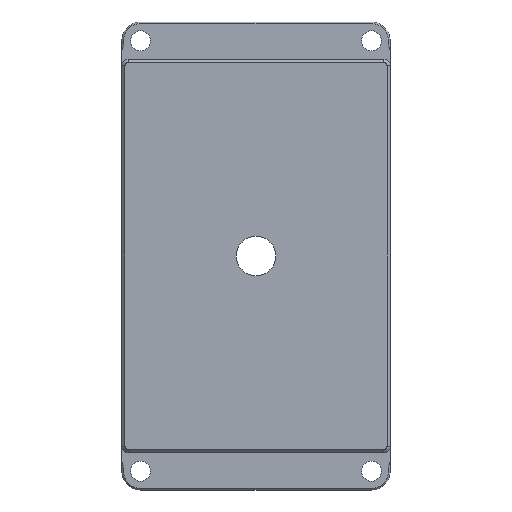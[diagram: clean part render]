
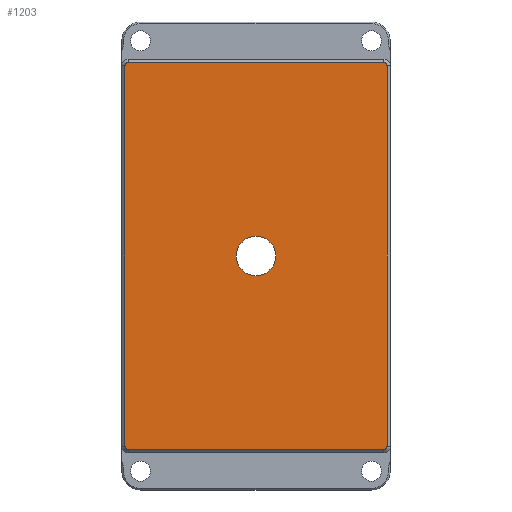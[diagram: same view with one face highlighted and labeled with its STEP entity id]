
A CAD part, front view. The second image highlights one B-rep face of the part: STEP entity #1203.
In plain terms, the highlighted planar face has unit normal (0, -1, 0).
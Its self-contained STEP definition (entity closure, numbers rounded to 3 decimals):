
#74 = LINE ( 'NONE', #959, #1368 ) ;
#88 = ORIENTED_EDGE ( 'NONE', *, *, #155, .F. ) ;
#89 = DIRECTION ( 'NONE',  ( 1., 0., 0. ) ) ;
#90 = CIRCLE ( 'NONE', #715, 3.175 ) ;
#100 = DIRECTION ( 'NONE',  ( 0., 0., -1. ) ) ;
#129 = CARTESIAN_POINT ( 'NONE',  ( 21., -6., 30.5 ) ) ;
#155 = EDGE_CURVE ( 'NONE', #381, #381, #90, .T. ) ;
#165 = ORIENTED_EDGE ( 'NONE', *, *, #798, .T. ) ;
#189 = AXIS2_PLACEMENT_3D ( 'NONE', #983, #1487, #357 ) ;
#209 = CARTESIAN_POINT ( 'NONE',  ( -20.5, -6., 31. ) ) ;
#255 = CARTESIAN_POINT ( 'NONE',  ( -20.5, -6., 31. ) ) ;
#317 = AXIS2_PLACEMENT_3D ( 'NONE', #621, #1103, #612 ) ;
#347 = VERTEX_POINT ( 'NONE', #560 ) ;
#357 = DIRECTION ( 'NONE',  ( 0., 0., 1. ) ) ;
#359 = CARTESIAN_POINT ( 'NONE',  ( -21., -6., -30.5 ) ) ;
#365 = CARTESIAN_POINT ( 'NONE',  ( 20.5, -6., 30.5 ) ) ;
#381 = VERTEX_POINT ( 'NONE', #1122 ) ;
#383 = EDGE_CURVE ( 'NONE', #537, #1275, #752, .T. ) ;
#396 = CIRCLE ( 'NONE', #1290, 0.5 ) ;
#403 = LINE ( 'NONE', #1401, #935 ) ;
#449 = ORIENTED_EDGE ( 'NONE', *, *, #649, .T. ) ;
#465 = EDGE_LOOP ( 'NONE', ( #88 ) ) ;
#483 = PLANE ( 'NONE',  #189 ) ;
#530 = CARTESIAN_POINT ( 'NONE',  ( 20.5, -6., -30.5 ) ) ;
#537 = VERTEX_POINT ( 'NONE', #1069 ) ;
#538 = CARTESIAN_POINT ( 'NONE',  ( -20.5, -6., -31. ) ) ;
#560 = CARTESIAN_POINT ( 'NONE',  ( -21., -6., 30.5 ) ) ;
#604 = FACE_OUTER_BOUND ( 'NONE', #763, .T. ) ;
#612 = DIRECTION ( 'NONE',  ( 0., 0., 1. ) ) ;
#621 = CARTESIAN_POINT ( 'NONE',  ( -20.5, -6., 30.5 ) ) ;
#625 = DIRECTION ( 'NONE',  ( 0., -1., 0. ) ) ;
#627 = VECTOR ( 'NONE', #1272, 1000. ) ;
#633 = DIRECTION ( 'NONE',  ( 0., 0., 1. ) ) ;
#647 = ORIENTED_EDGE ( 'NONE', *, *, #1605, .T. ) ;
#649 = EDGE_CURVE ( 'NONE', #1275, #1441, #884, .T. ) ;
#658 = VERTEX_POINT ( 'NONE', #359 ) ;
#666 = DIRECTION ( 'NONE',  ( 0., 0., 1. ) ) ;
#709 = ORIENTED_EDGE ( 'NONE', *, *, #1529, .T. ) ;
#715 = AXIS2_PLACEMENT_3D ( 'NONE', #971, #1473, #100 ) ;
#733 = ORIENTED_EDGE ( 'NONE', *, *, #1030, .T. ) ;
#734 = DIRECTION ( 'NONE',  ( 0., -1., 0. ) ) ;
#743 = DIRECTION ( 'NONE',  ( 0., 0., 1. ) ) ;
#752 = CIRCLE ( 'NONE', #1199, 0.5 ) ;
#763 = EDGE_LOOP ( 'NONE', ( #647, #733, #1142, #449, #1254, #709, #974, #165 ) ) ;
#783 = DIRECTION ( 'NONE',  ( 0., 0., -1. ) ) ;
#790 = VECTOR ( 'NONE', #1232, 1000. ) ;
#798 = EDGE_CURVE ( 'NONE', #347, #658, #403, .T. ) ;
#873 = VERTEX_POINT ( 'NONE', #1520 ) ;
#884 = LINE ( 'NONE', #129, #790 ) ;
#935 = VECTOR ( 'NONE', #783, 1000. ) ;
#940 = CARTESIAN_POINT ( 'NONE',  ( 21., -6., -30.5 ) ) ;
#959 = CARTESIAN_POINT ( 'NONE',  ( 20.5, -6., -31. ) ) ;
#971 = CARTESIAN_POINT ( 'NONE',  ( 0., -6., 0. ) ) ;
#974 = ORIENTED_EDGE ( 'NONE', *, *, #1089, .T. ) ;
#983 = CARTESIAN_POINT ( 'NONE',  ( 0., -6., 0. ) ) ;
#1024 = CIRCLE ( 'NONE', #317, 0.5 ) ;
#1030 = EDGE_CURVE ( 'NONE', #1344, #537, #74, .T. ) ;
#1055 = VERTEX_POINT ( 'NONE', #209 ) ;
#1069 = CARTESIAN_POINT ( 'NONE',  ( 20.5, -6., -31. ) ) ;
#1089 = EDGE_CURVE ( 'NONE', #1055, #347, #1024, .T. ) ;
#1103 = DIRECTION ( 'NONE',  ( 0., -1., 0. ) ) ;
#1110 = FACE_BOUND ( 'NONE', #465, .T. ) ;
#1122 = CARTESIAN_POINT ( 'NONE',  ( 0., -6., -3.175 ) ) ;
#1136 = LINE ( 'NONE', #255, #627 ) ;
#1141 = EDGE_CURVE ( 'NONE', #1441, #873, #396, .T. ) ;
#1142 = ORIENTED_EDGE ( 'NONE', *, *, #383, .T. ) ;
#1156 = CIRCLE ( 'NONE', #1447, 0.5 ) ;
#1199 = AXIS2_PLACEMENT_3D ( 'NONE', #530, #1280, #666 ) ;
#1203 = ADVANCED_FACE ( 'NONE', ( #604, #1110 ), #483, .F. ) ;
#1228 = CARTESIAN_POINT ( 'NONE',  ( 21., -6., 30.5 ) ) ;
#1232 = DIRECTION ( 'NONE',  ( 0., 0., 1. ) ) ;
#1254 = ORIENTED_EDGE ( 'NONE', *, *, #1141, .T. ) ;
#1272 = DIRECTION ( 'NONE',  ( -1., 0., 0. ) ) ;
#1275 = VERTEX_POINT ( 'NONE', #940 ) ;
#1280 = DIRECTION ( 'NONE',  ( 0., -1., 0. ) ) ;
#1290 = AXIS2_PLACEMENT_3D ( 'NONE', #365, #734, #743 ) ;
#1344 = VERTEX_POINT ( 'NONE', #538 ) ;
#1368 = VECTOR ( 'NONE', #89, 1000. ) ;
#1401 = CARTESIAN_POINT ( 'NONE',  ( -21., -6., -30.5 ) ) ;
#1441 = VERTEX_POINT ( 'NONE', #1228 ) ;
#1447 = AXIS2_PLACEMENT_3D ( 'NONE', #1498, #625, #633 ) ;
#1473 = DIRECTION ( 'NONE',  ( 0., -1., 0. ) ) ;
#1487 = DIRECTION ( 'NONE',  ( 0., 1., 0. ) ) ;
#1498 = CARTESIAN_POINT ( 'NONE',  ( -20.5, -6., -30.5 ) ) ;
#1520 = CARTESIAN_POINT ( 'NONE',  ( 20.5, -6., 31. ) ) ;
#1529 = EDGE_CURVE ( 'NONE', #873, #1055, #1136, .T. ) ;
#1605 = EDGE_CURVE ( 'NONE', #658, #1344, #1156, .T. ) ;
